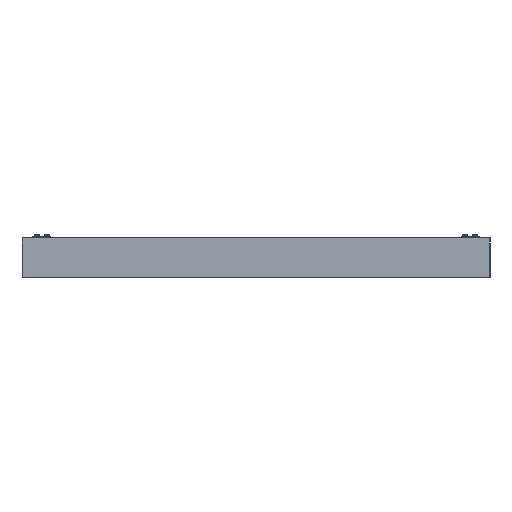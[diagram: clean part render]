
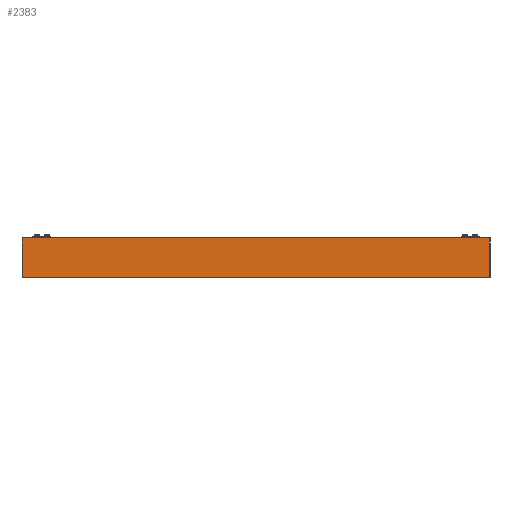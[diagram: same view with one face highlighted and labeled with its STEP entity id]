
A CAD part, left-side view. The second image highlights one B-rep face of the part: STEP entity #2383.
In plain terms, the highlighted planar face has unit normal (-1, 0, 0).
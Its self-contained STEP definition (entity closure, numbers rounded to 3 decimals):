
#2383=ADVANCED_FACE('',(#3601),#40016,.T.);
#3601=FACE_OUTER_BOUND('',#4986,.T.);
#4986=EDGE_LOOP('',(#10710,#10711,#10712,#10713));
#10710=ORIENTED_EDGE('',*,*,#35509,.T.);
#10711=ORIENTED_EDGE('',*,*,#35510,.T.);
#10712=ORIENTED_EDGE('',*,*,#35511,.T.);
#10713=ORIENTED_EDGE('',*,*,#35512,.T.);
#17947=B_SPLINE_CURVE_WITH_KNOTS('',1,(#88948,#88949),.UNSPECIFIED.,.F.,
 .F.,(2,2),(-200.,-150.),.UNSPECIFIED.);
#17948=B_SPLINE_CURVE_WITH_KNOTS('',1,(#88950,#88951),.UNSPECIFIED.,.F.,
 .F.,(2,2),(-200.,-150.),.UNSPECIFIED.);
#17949=B_SPLINE_CURVE_WITH_KNOTS('',1,(#88952,#88953),.UNSPECIFIED.,.F.,
 .F.,(2,2),(0.,400.),.UNSPECIFIED.);
#17950=B_SPLINE_CURVE_WITH_KNOTS('',1,(#88954,#88955),.UNSPECIFIED.,.F.,
 .F.,(2,2),(0.,400.),.UNSPECIFIED.);
#17951=B_SPLINE_CURVE_WITH_KNOTS('',1,(#88956,#88957),.UNSPECIFIED.,.F.,
 .F.,(2,2),(150.,200.),.UNSPECIFIED.);
#17952=B_SPLINE_CURVE_WITH_KNOTS('',1,(#88958,#88959),.UNSPECIFIED.,.F.,
 .F.,(2,2),(150.,200.),.UNSPECIFIED.);
#17953=B_SPLINE_CURVE_WITH_KNOTS('',1,(#88960,#88961),.UNSPECIFIED.,.F.,
 .F.,(2,2),(-400.,0.),.UNSPECIFIED.);
#17954=B_SPLINE_CURVE_WITH_KNOTS('',1,(#88962,#88963),.UNSPECIFIED.,.F.,
 .F.,(2,2),(-400.,0.),.UNSPECIFIED.);
#17961=B_SPLINE_CURVE_WITH_KNOTS('',1,(#88976,#88977),.UNSPECIFIED.,.F.,
 .F.,(2,2),(0.,400.),.UNSPECIFIED.);
#17971=B_SPLINE_CURVE_WITH_KNOTS('',1,(#88996,#88997),.UNSPECIFIED.,.F.,
 .F.,(2,2),(-400.,0.),.UNSPECIFIED.);
#17978=B_SPLINE_CURVE_WITH_KNOTS('',1,(#89010,#89011),.UNSPECIFIED.,.F.,
 .F.,(2,2),(-200.,-150.),.UNSPECIFIED.);
#17979=B_SPLINE_CURVE_WITH_KNOTS('',1,(#89012,#89013),.UNSPECIFIED.,.F.,
 .F.,(2,2),(150.,200.),.UNSPECIFIED.);
#23821=PCURVE('',#40016,#29635);
#23822=PCURVE('',#40016,#29636);
#23823=PCURVE('',#40016,#29637);
#23824=PCURVE('',#40016,#29638);
#23828=PCURVE('',#40017,#29642);
#23834=PCURVE('',#40019,#29648);
#23840=PCURVE('',#40020,#29654);
#23841=PCURVE('',#40021,#29655);
#29635=DEFINITIONAL_REPRESENTATION('',(#17948),#89366);
#29636=DEFINITIONAL_REPRESENTATION('',(#17950),#89366);
#29637=DEFINITIONAL_REPRESENTATION('',(#17952),#89366);
#29638=DEFINITIONAL_REPRESENTATION('',(#17954),#89366);
#29642=DEFINITIONAL_REPRESENTATION('',(#17961),#89366);
#29648=DEFINITIONAL_REPRESENTATION('',(#17971),#89366);
#29654=DEFINITIONAL_REPRESENTATION('',(#17978),#89366);
#29655=DEFINITIONAL_REPRESENTATION('',(#17979),#89366);
#32602=SURFACE_CURVE('',#17947,(#23821,#23840),.PCURVE_S1.);
#32603=SURFACE_CURVE('',#17949,(#23822,#23828),.PCURVE_S1.);
#32604=SURFACE_CURVE('',#17951,(#23823,#23841),.PCURVE_S1.);
#32605=SURFACE_CURVE('',#17953,(#23824,#23834),.PCURVE_S1.);
#35509=EDGE_CURVE('',#38813,#38814,#32602,.T.);
#35510=EDGE_CURVE('',#38814,#38815,#32603,.T.);
#35511=EDGE_CURVE('',#38815,#38816,#32604,.T.);
#35512=EDGE_CURVE('',#38816,#38813,#32605,.T.);
#38813=VERTEX_POINT('',#88940);
#38814=VERTEX_POINT('',#88941);
#38815=VERTEX_POINT('',#88942);
#38816=VERTEX_POINT('',#88943);
#40016=PLANE('',#41040);
#40017=PLANE('',#41041);
#40019=PLANE('',#41043);
#40020=PLANE('',#41044);
#40021=PLANE('',#41045);
#41040=AXIS2_PLACEMENT_3D('',#88934,#41962,$);
#41041=AXIS2_PLACEMENT_3D('',#88935,#41963,$);
#41043=AXIS2_PLACEMENT_3D('',#88937,#41965,$);
#41044=AXIS2_PLACEMENT_3D('',#88938,#41966,$);
#41045=AXIS2_PLACEMENT_3D('',#88939,#41967,$);
#41962=DIRECTION('',(-1.,0.,0.));
#41963=DIRECTION('',(0.,0.,1.));
#41965=DIRECTION('',(0.,0.,-1.));
#41966=DIRECTION('',(0.,-1.,0.));
#41967=DIRECTION('',(0.,1.,0.));
#88934=CARTESIAN_POINT('',(-850.,-585.,-40.));
#88935=CARTESIAN_POINT('',(-850.,-585.,40.));
#88937=CARTESIAN_POINT('',(-810.,-585.,-40.));
#88938=CARTESIAN_POINT('',(-810.,-585.,-40.));
#88939=CARTESIAN_POINT('',(-810.,355.,-40.));
#88940=CARTESIAN_POINT('',(-850.,-585.,-40.));
#88941=CARTESIAN_POINT('',(-850.,-585.,40.));
#88942=CARTESIAN_POINT('',(-850.,355.,40.));
#88943=CARTESIAN_POINT('',(-850.,355.,-40.));
#88948=CARTESIAN_POINT('',(-850.,-585.,-40.));
#88949=CARTESIAN_POINT('',(-850.,-585.,40.));
#88950=CARTESIAN_POINT('',(-200.,0.));
#88951=CARTESIAN_POINT('',(-150.,0.));
#88952=CARTESIAN_POINT('',(-850.,-585.,40.));
#88953=CARTESIAN_POINT('',(-850.,355.,40.));
#88954=CARTESIAN_POINT('',(-150.,0.));
#88955=CARTESIAN_POINT('',(-150.,400.));
#88956=CARTESIAN_POINT('',(-850.,355.,40.));
#88957=CARTESIAN_POINT('',(-850.,355.,-40.));
#88958=CARTESIAN_POINT('',(-150.,400.));
#88959=CARTESIAN_POINT('',(-200.,400.));
#88960=CARTESIAN_POINT('',(-850.,355.,-40.));
#88961=CARTESIAN_POINT('',(-850.,-585.,-40.));
#88962=CARTESIAN_POINT('',(-200.,400.));
#88963=CARTESIAN_POINT('',(-200.,0.));
#88976=CARTESIAN_POINT('',(-150.,0.));
#88977=CARTESIAN_POINT('',(-150.,400.));
#88996=CARTESIAN_POINT('',(0.,400.));
#88997=CARTESIAN_POINT('',(0.,0.));
#89010=CARTESIAN_POINT('',(0.,0.));
#89011=CARTESIAN_POINT('',(40.,0.));
#89012=CARTESIAN_POINT('',(0.,40.));
#89013=CARTESIAN_POINT('',(0.,0.));
#89366=(
GEOMETRIC_REPRESENTATION_CONTEXT(2)
PARAMETRIC_REPRESENTATION_CONTEXT()
REPRESENTATION_CONTEXT('pspace','')
);
